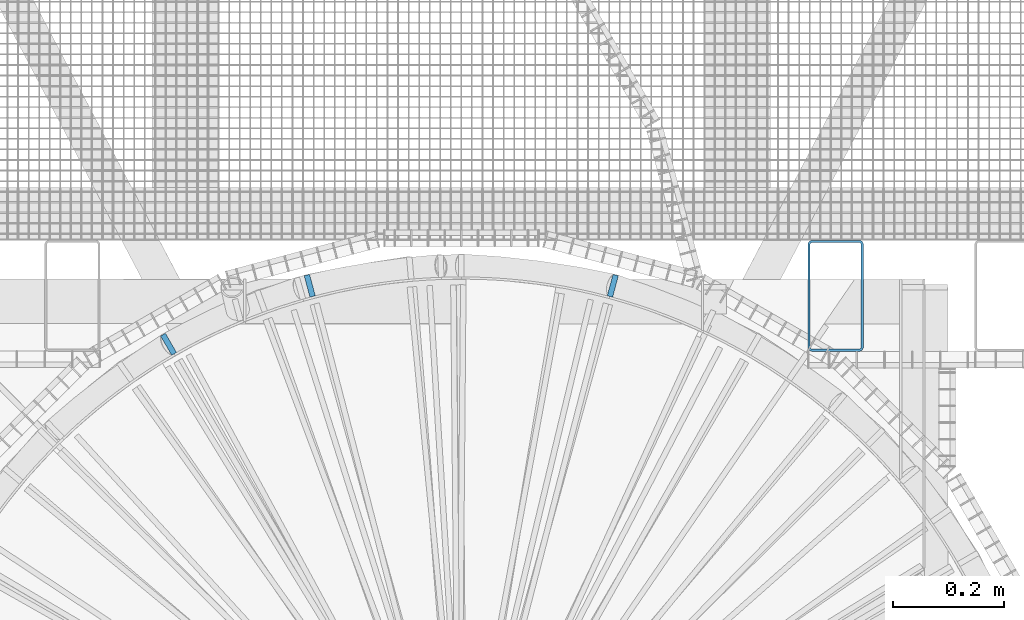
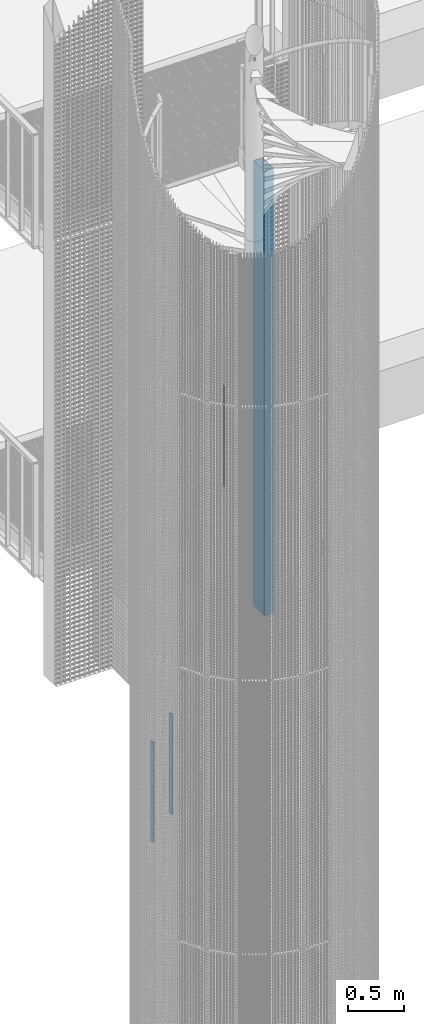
# One storey, part 61 of 1148: 4 columns, 4 elements without a shape of their own.
"""IFC2X3 building model written with IfcOpenShell, lengths in millimetres."""

from ifc_helpers import new_model, si_unit, frame, origin_with_axes, origin_2d_with_axis, place, context, subcontext, project, spatial, rectangle, hollow_rectangle, extrude, material, type_object, element, aggregate, save


model = new_model("IFC2X3")

# Units and contexts
model_context = context("Model", 3, precision=1e-05, world=origin_with_axes())
body_context = subcontext(model_context, "Body", "Model", "MODEL_VIEW")
ifc_project = project(units=[si_unit("LENGTHUNIT", "METRE", prefix="MILLI"), si_unit("AREAUNIT", "SQUARE_METRE"), si_unit("VOLUMEUNIT", "CUBIC_METRE"), si_unit("MASSUNIT", "GRAM", prefix="KILO"), si_unit("TIMEUNIT", "SECOND"), si_unit("PLANEANGLEUNIT", "RADIAN"), si_unit("SOLIDANGLEUNIT", "STERADIAN"), si_unit("THERMODYNAMICTEMPERATUREUNIT", "DEGREE_CELSIUS"), si_unit("LUMINOUSINTENSITYUNIT", "LUMEN")], contexts=[model_context])

# Site, building, storey
site_placement = place(None, origin_with_axes())
site = spatial("IfcSite", under=ifc_project, at=site_placement, Name="Undefined", CompositionType="ELEMENT")
building_placement = place(site_placement, origin_with_axes())
building = spatial("IfcBuilding", under=site, at=building_placement, Name="Undefined", CompositionType="ELEMENT")
storey_placement = place(building_placement, origin_with_axes())
storey = spatial("IfcBuildingStorey", under=building, at=storey_placement, Name="Undefined", CompositionType="ELEMENT", Elevation=0.0)

# Assembly, column
assembly_1_placement = place(storey_placement, origin_with_axes())
assembly_1 = element("IfcElementAssembly", 1, at=assembly_1_placement, inside=storey, Name="MONTANT", AssemblyPlace="NOTDEFINED", PredefinedType="NOTDEFINED")
ifc_material = material(Name="STEEL/S235JR")
column_type_1 = type_object("IfcColumnType", Name="PL10*40", PredefinedType="NOTDEFINED")
column_1_placement = place(assembly_1_placement, frame((21872.7952735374, 1018.08582090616, 6646.52), z_axis=(0.0, 0.0, 1.0), x_axis=(-0.258819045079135, -0.965925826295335, 0.0)))
column_1 = element("IfcColumn", 2, at=column_1_placement, type_object=column_type_1, material=ifc_material, Name="MONTANT", context=body_context, shape_type="SweptSolid", body=[
    extrude(rectangle(XDim=10.0, YDim=40.0, at=origin_2d_with_axis()), frame((0.0, 0.0, 1100.0), z_axis=(0.0, 0.0, -1.0), x_axis=(0.0, 1.0, 0.0)), (0.0, 0.0, 1.0), 1100.0),
])
aggregate(assembly_1, [column_1])

assembly_2_placement = place(storey_placement, origin_with_axes())
assembly_2 = element("IfcElementAssembly", 3, at=assembly_2_placement, inside=storey, Name="MONTANT", AssemblyPlace="NOTDEFINED", PredefinedType="NOTDEFINED")
column_2_placement = place(assembly_2_placement, frame((21073.0000000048, 912.790775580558, 3090.4), z_axis=(0.0, 0.0, 1.0), x_axis=(0.499999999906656, -0.866025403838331, 0.0)))
column_2 = element("IfcColumn", 4, at=column_2_placement, type_object=column_type_1, material=ifc_material, Name="MONTANT", context=body_context, shape_type="SweptSolid", body=[
    extrude(rectangle(XDim=10.0, YDim=40.0, at=origin_2d_with_axis()), frame((0.0, 0.0, 1100.0), z_axis=(0.0, 0.0, -1.0), x_axis=(0.0, 1.0, 0.0)), (0.0, 0.0, 1.0), 1100.0),
])
aggregate(assembly_2, [column_2])

assembly_3_placement = place(storey_placement, origin_with_axes())
assembly_3 = element("IfcElementAssembly", 5, at=assembly_3_placement, inside=storey, Name="MONTANT", AssemblyPlace="NOTDEFINED", PredefinedType="NOTDEFINED")
column_3_placement = place(assembly_3_placement, frame((21327.2047264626, 1018.08582090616, 3244.92), z_axis=(0.0, 0.0, 1.0), x_axis=(0.258819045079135, -0.965925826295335, 0.0)))
column_3 = element("IfcColumn", 6, at=column_3_placement, type_object=column_type_1, material=ifc_material, Name="MONTANT", context=body_context, shape_type="SweptSolid", body=[
    extrude(rectangle(XDim=10.0, YDim=40.0, at=origin_2d_with_axis()), frame((0.0, 0.0, 1100.0), z_axis=(0.0, 0.0, -1.0), x_axis=(0.0, 1.0, 0.0)), (0.0, 0.0, 1.0), 1100.0),
])
aggregate(assembly_3, [column_3])

assembly_4_placement = place(storey_placement, origin_with_axes())
assembly_4 = element("IfcElementAssembly", 7, at=assembly_4_placement, inside=storey, AssemblyPlace="NOTDEFINED", PredefinedType="NOTDEFINED")
column_type_2 = type_object("IfcColumnType", Name="TUBE-R-200*100*4", PredefinedType="NOTDEFINED")
column_4_placement = place(assembly_4_placement, frame((22273.920410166, 999.994689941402, 5170.0), z_axis=(0.0, 0.0, 1.0), x_axis=(0.0, 1.0, 0.0)))
column_4 = element("IfcColumn", 8, at=column_4_placement, type_object=column_type_2, material=ifc_material, Name="EXISTANTS", context=body_context, shape_type="SweptSolid", body=[
    extrude(hollow_rectangle(XDim=100.0, YDim=200.0, WallThickness=4.0, InnerFilletRadius=4.0, OuterFilletRadius=8.0, at=origin_2d_with_axis()), frame((0.0, 0.0, 4870.00000000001), z_axis=(0.0, 0.0, -1.0), x_axis=(0.0, 1.0, 0.0)), (0.0, 0.0, 1.0), 4870.0),
])
aggregate(assembly_4, [column_4])

save(model, "model.ifc")
